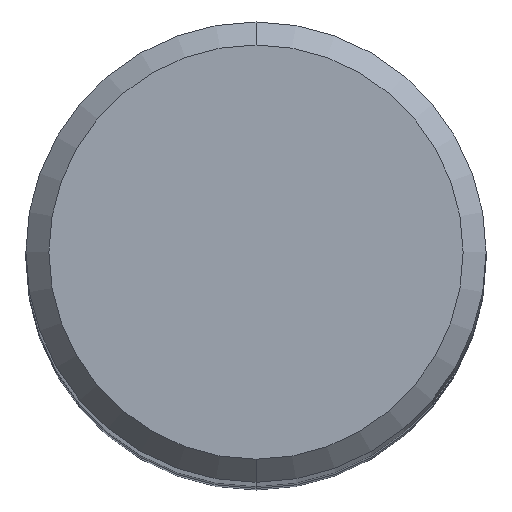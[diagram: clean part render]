
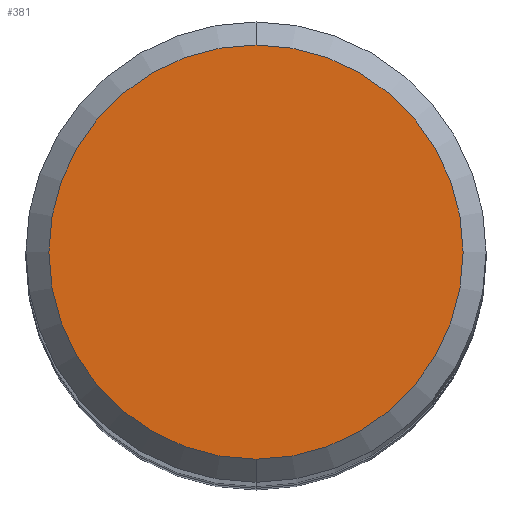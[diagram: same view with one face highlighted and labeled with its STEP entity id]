
A CAD part, top view. The second image highlights one B-rep face of the part: STEP entity #381.
In plain terms, the highlighted planar face has unit normal (0, 0, 1).
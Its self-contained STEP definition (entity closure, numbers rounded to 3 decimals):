
#359=EDGE_CURVE('',#427,#501,#762,.T.);
#381=ADVANCED_FACE('',(#786),#787,.T.);
#427=VERTEX_POINT('',#835);
#447=EDGE_CURVE('',#501,#427,#859,.T.);
#501=VERTEX_POINT('',#920);
#762=CIRCLE('',#1347,4.5);
#786=FACE_OUTER_BOUND('',#1406,.T.);
#787=PLANE('',#1407);
#835=CARTESIAN_POINT('',(0.,-4.5,0.0));
#859=CIRCLE('',#1527,4.5);
#920=CARTESIAN_POINT('',(0.0,4.5,0.0));
#1347=AXIS2_PLACEMENT_3D('',#2003,#2004,#2005);
#1406=EDGE_LOOP('',(#2037,#2038));
#1407=AXIS2_PLACEMENT_3D('',#2039,#2040,#2041);
#1527=AXIS2_PLACEMENT_3D('',#2109,#2110,#2111);
#2003=CARTESIAN_POINT('',(0.0,0.0,0.0));
#2004=DIRECTION('',(0.0,0.0,-1.0));
#2005=DIRECTION('',(0.0,1.0,0.0));
#2037=ORIENTED_EDGE('',*,*,#447,.F.);
#2038=ORIENTED_EDGE('',*,*,#359,.F.);
#2039=CARTESIAN_POINT('',(0.0,2.25,0.0));
#2040=DIRECTION('',(-0.0,0.0,1.0));
#2041=DIRECTION('',(0.0,-1.0,0.0));
#2109=CARTESIAN_POINT('',(0.0,0.0,0.0));
#2110=DIRECTION('',(0.0,0.0,-1.0));
#2111=DIRECTION('',(0.0,1.0,0.0));
